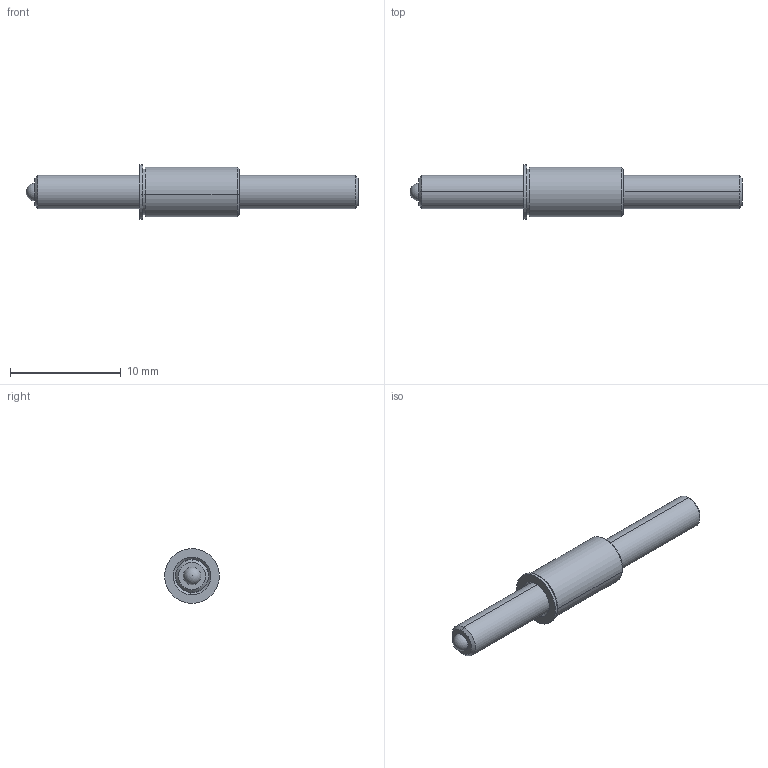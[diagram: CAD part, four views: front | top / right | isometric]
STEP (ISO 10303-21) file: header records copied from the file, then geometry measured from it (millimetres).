
FILE_DESCRIPTION (( 'STEP AP214' ), '1' );
FILE_NAME ('TSBM3-25-30_9.STEP', '2013-03-14T21:10:47', ( 'workpc' ), ( 'Microsoft' ), 'SwSTEP 2.0', 'SolidWorks 2013', '' );
FILE_SCHEMA (( 'AUTOMOTIVE_DESIGN' ));
Length unit declared in the file: inch
Products named in the file (1): TSBM3-25-30_9
Bounding box: 30 x 4.93 x 4.93 mm (x, y, z)
Surface area: 457.8 mm2 (no closed solid volume)
Topology: 0 solids, 3 shells, 32 faces, 75 edges, 49 vertices
Faces by surface type: plane 12, cone 10, cylinder 8, sphere 2
Entity records: 1325 total; most frequent: DIRECTION 170, CARTESIAN_POINT 149, ORIENTED_EDGE 128, EDGE_CURVE 70, AXIS2_PLACEMENT_3D 67, VERTEX_POINT 46, EDGE_LOOP 38, LINE 36
